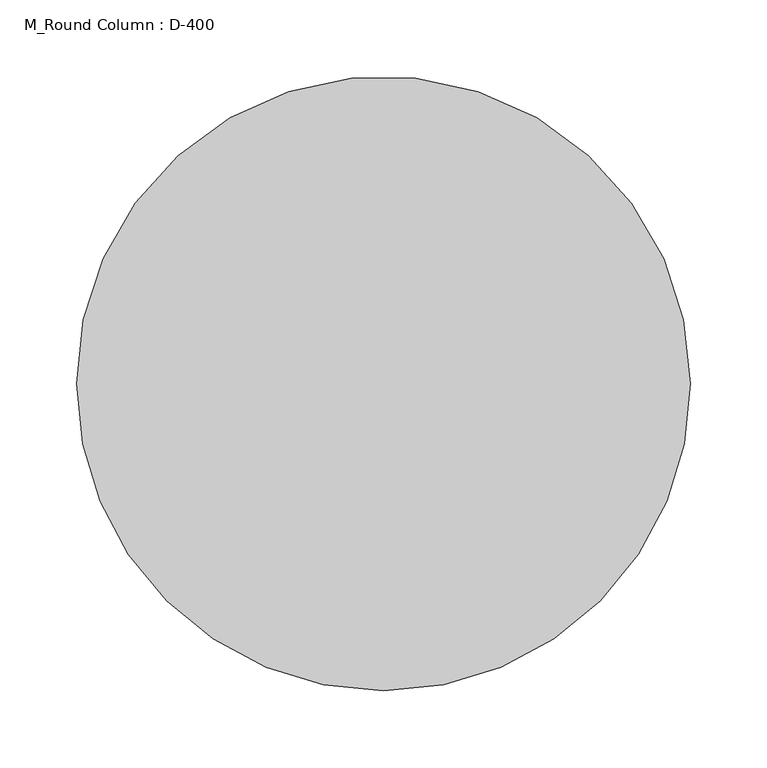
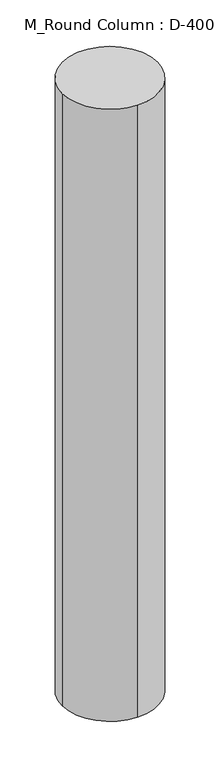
"""IFC4 building model written with IfcOpenShell, lengths in millimetres: column geometry, M_Round Column : D-400."""

from ifc_helpers import new_model, si_unit, point, frame, origin, origin_2d, place, context, project, spatial, circle_curve, trimmed, segment, composite_curve, outline, extrude, source, transform, mapped, element, save


def m_round_column_d_400_805b0a86(model_context):
    return source(origin(), model_context, "Body", "SweptSolid", [
        extrude(outline(composite_curve([segment(trimmed(circle_curve(origin_2d(), 200.0), [point((200.0, 0.0))], [point((0.0, -200.0))], False, "CARTESIAN"), True, "CONTINUOUS"), segment(trimmed(circle_curve(origin_2d(), 200.0), [point((0.0, -200.0))], [point((-200.0, 0.0))], False, "CARTESIAN"), True, "CONTINUOUS"), segment(trimmed(circle_curve(origin_2d(), 200.0), [point((-200.0, 0.0))], [point((200.0, 0.0))], False, "CARTESIAN"), True, "CONTINUOUS")], self_intersect=False)), frame((0.0, 0.0, 5200.0), z_axis=(0.0, 0.0, 1.0), x_axis=(1.0, 0.0, 0.0)), (0.0, 0.0, 1.0), 2720.0),
    ])


if __name__ == "__main__":
    model = new_model("IFC4")
    model_context = context("Model", 3, world=origin())
    ifc_project = project(units=[si_unit("LENGTHUNIT", "METRE", prefix="MILLI")], contexts=[model_context])
    site = spatial("IfcSite", under=ifc_project)
    building = spatial("IfcBuilding", under=site)
    placement = place(None, origin())
    m_round_column_d_400_shape = m_round_column_d_400_805b0a86(model_context)
    element("IfcColumn", 1, ObjectType="M_Round Column : D-400", at=placement, inside=building, context=model_context, shape_type="MappedRepresentation", body=[
        mapped(m_round_column_d_400_shape, transform((0.0, 0.0, 0.0), x_axis=(1.0, 0.0, 0.0), y_axis=(0.0, 1.0, 0.0), z_axis=(0.0, 0.0, 1.0))),
    ])
    save(model, "model.ifc")
